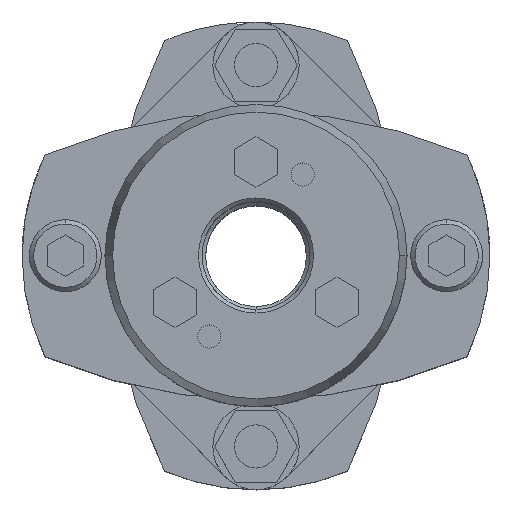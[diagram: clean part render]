
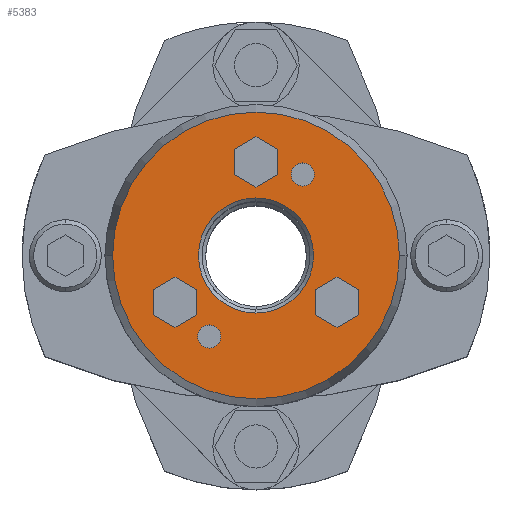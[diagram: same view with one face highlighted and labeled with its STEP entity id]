
A CAD part, top view. The second image highlights one B-rep face of the part: STEP entity #5383.
In plain terms, the highlighted planar face has unit normal (0, 0, 1).
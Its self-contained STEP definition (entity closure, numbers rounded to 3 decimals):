
#1783=CARTESIAN_POINT('',(-19.928,0.,40.0));
#1784=VERTEX_POINT('',#1783);
#1791=CARTESIAN_POINT('',(19.928,0.,40.0));
#1792=VERTEX_POINT('',#1791);
#1793=CARTESIAN_POINT('',(0.,0.,40.0));
#1794=DIRECTION('',(0.0,0.0,-1.0));
#1795=DIRECTION('',(-1.0,0.0,0.0));
#1796=AXIS2_PLACEMENT_3D('',#1793,#1794,#1795);
#1797=CIRCLE('',#1796,19.928);
#1798=EDGE_CURVE('',#1784,#1792,#1797,.T.);
#1893=CARTESIAN_POINT('',(0.,8.,40.0));
#1894=VERTEX_POINT('',#1893);
#1910=CARTESIAN_POINT('',(0.,-8.,40.0));
#1911=VERTEX_POINT('',#1910);
#1918=CARTESIAN_POINT('',(0.,0.,40.0));
#1919=DIRECTION('',(0.0,0.0,1.0));
#1920=DIRECTION('',(0.0,1.0,0.0));
#1921=AXIS2_PLACEMENT_3D('',#1918,#1919,#1920);
#1922=CIRCLE('',#1921,8.0);
#1923=EDGE_CURVE('',#1911,#1894,#1922,.T.);
#2041=CARTESIAN_POINT('',(6.5,12.858,40.0));
#2042=VERTEX_POINT('',#2041);
#2058=CARTESIAN_POINT('',(6.5,9.658,40.0));
#2059=VERTEX_POINT('',#2058);
#2066=CARTESIAN_POINT('',(6.5,11.258,40.0));
#2067=DIRECTION('',(0.0,0.0,-1.0));
#2068=DIRECTION('',(0.0,1.0,0.0));
#2069=AXIS2_PLACEMENT_3D('',#2066,#2067,#2068);
#2070=CIRCLE('',#2069,1.6);
#2071=EDGE_CURVE('',#2042,#2059,#2070,.T.);
#2083=CARTESIAN_POINT('',(-6.5,-9.658,40.0));
#2084=VERTEX_POINT('',#2083);
#2100=CARTESIAN_POINT('',(-6.5,-12.858,40.0));
#2101=VERTEX_POINT('',#2100);
#2108=CARTESIAN_POINT('',(-6.5,-11.258,40.0));
#2109=DIRECTION('',(0.0,0.0,-1.0));
#2110=DIRECTION('',(0.0,1.0,0.0));
#2111=AXIS2_PLACEMENT_3D('',#2108,#2109,#2110);
#2112=CIRCLE('',#2111,1.6);
#2113=EDGE_CURVE('',#2084,#2101,#2112,.T.);
#4586=CARTESIAN_POINT('',(-6.5,-11.258,40.0));
#4587=DIRECTION('',(0.0,0.0,-1.0));
#4588=DIRECTION('',(0.0,1.0,0.0));
#4589=AXIS2_PLACEMENT_3D('',#4586,#4587,#4588);
#4590=CIRCLE('',#4589,1.6);
#4591=EDGE_CURVE('',#2101,#2084,#4590,.T.);
#4620=CARTESIAN_POINT('',(6.5,11.258,40.0));
#4621=DIRECTION('',(0.0,0.0,-1.0));
#4622=DIRECTION('',(0.0,1.0,0.0));
#4623=AXIS2_PLACEMENT_3D('',#4620,#4621,#4622);
#4624=CIRCLE('',#4623,1.6);
#4625=EDGE_CURVE('',#2059,#2042,#4624,.T.);
#4663=CARTESIAN_POINT('',(-11.258,-3.,40.0));
#4664=VERTEX_POINT('',#4663);
#4671=CARTESIAN_POINT('',(-14.289,-4.75,40.0));
#4672=VERTEX_POINT('',#4671);
#4673=CARTESIAN_POINT('',(-14.289,-4.75,40.0));
#4674=DIRECTION('',(0.866,0.5,0.0));
#4675=VECTOR('',#4674,3.5);
#4676=LINE('',#4673,#4675);
#4677=EDGE_CURVE('',#4672,#4664,#4676,.T.);
#4701=CARTESIAN_POINT('',(-8.227,-4.75,40.0));
#4702=VERTEX_POINT('',#4701);
#4709=CARTESIAN_POINT('',(-11.258,-3.,40.0));
#4710=DIRECTION('',(0.866,-0.5,0.0));
#4711=VECTOR('',#4710,3.5);
#4712=LINE('',#4709,#4711);
#4713=EDGE_CURVE('',#4664,#4702,#4712,.T.);
#4732=CARTESIAN_POINT('',(-8.227,-8.25,40.0));
#4733=VERTEX_POINT('',#4732);
#4740=CARTESIAN_POINT('',(-8.227,-4.75,40.0));
#4741=DIRECTION('',(0.0,-1.0,0.0));
#4742=VECTOR('',#4741,3.5);
#4743=LINE('',#4740,#4742);
#4744=EDGE_CURVE('',#4702,#4733,#4743,.T.);
#4763=CARTESIAN_POINT('',(-11.258,-10.,40.0));
#4764=VERTEX_POINT('',#4763);
#4771=CARTESIAN_POINT('',(-8.227,-8.25,40.0));
#4772=DIRECTION('',(-0.866,-0.5,0.0));
#4773=VECTOR('',#4772,3.5);
#4774=LINE('',#4771,#4773);
#4775=EDGE_CURVE('',#4733,#4764,#4774,.T.);
#4794=CARTESIAN_POINT('',(-14.289,-8.25,40.0));
#4795=VERTEX_POINT('',#4794);
#4802=CARTESIAN_POINT('',(-11.258,-10.,40.0));
#4803=DIRECTION('',(-0.866,0.5,0.0));
#4804=VECTOR('',#4803,3.5);
#4805=LINE('',#4802,#4804);
#4806=EDGE_CURVE('',#4764,#4795,#4805,.T.);
#4824=CARTESIAN_POINT('',(-14.289,-8.25,40.0));
#4825=DIRECTION('',(0.0,1.0,0.0));
#4826=VECTOR('',#4825,3.5);
#4827=LINE('',#4824,#4826);
#4828=EDGE_CURVE('',#4795,#4672,#4827,.T.);
#4863=CARTESIAN_POINT('',(11.258,-3.,40.0));
#4864=VERTEX_POINT('',#4863);
#4871=CARTESIAN_POINT('',(8.227,-4.75,40.0));
#4872=VERTEX_POINT('',#4871);
#4873=CARTESIAN_POINT('',(8.227,-4.75,40.0));
#4874=DIRECTION('',(0.866,0.5,0.0));
#4875=VECTOR('',#4874,3.5);
#4876=LINE('',#4873,#4875);
#4877=EDGE_CURVE('',#4872,#4864,#4876,.T.);
#4901=CARTESIAN_POINT('',(14.289,-4.75,40.0));
#4902=VERTEX_POINT('',#4901);
#4909=CARTESIAN_POINT('',(11.258,-3.,40.0));
#4910=DIRECTION('',(0.866,-0.5,0.0));
#4911=VECTOR('',#4910,3.5);
#4912=LINE('',#4909,#4911);
#4913=EDGE_CURVE('',#4864,#4902,#4912,.T.);
#4932=CARTESIAN_POINT('',(14.289,-8.25,40.0));
#4933=VERTEX_POINT('',#4932);
#4940=CARTESIAN_POINT('',(14.289,-4.75,40.0));
#4941=DIRECTION('',(0.0,-1.0,0.0));
#4942=VECTOR('',#4941,3.5);
#4943=LINE('',#4940,#4942);
#4944=EDGE_CURVE('',#4902,#4933,#4943,.T.);
#4963=CARTESIAN_POINT('',(11.258,-10.,40.0));
#4964=VERTEX_POINT('',#4963);
#4971=CARTESIAN_POINT('',(14.289,-8.25,40.0));
#4972=DIRECTION('',(-0.866,-0.5,0.0));
#4973=VECTOR('',#4972,3.5);
#4974=LINE('',#4971,#4973);
#4975=EDGE_CURVE('',#4933,#4964,#4974,.T.);
#4994=CARTESIAN_POINT('',(8.227,-8.25,40.0));
#4995=VERTEX_POINT('',#4994);
#5002=CARTESIAN_POINT('',(11.258,-10.,40.0));
#5003=DIRECTION('',(-0.866,0.5,0.0));
#5004=VECTOR('',#5003,3.5);
#5005=LINE('',#5002,#5004);
#5006=EDGE_CURVE('',#4964,#4995,#5005,.T.);
#5024=CARTESIAN_POINT('',(8.227,-8.25,40.0));
#5025=DIRECTION('',(0.0,1.0,0.0));
#5026=VECTOR('',#5025,3.5);
#5027=LINE('',#5024,#5026);
#5028=EDGE_CURVE('',#4995,#4872,#5027,.T.);
#5063=CARTESIAN_POINT('',(0.,16.5,40.0));
#5064=VERTEX_POINT('',#5063);
#5071=CARTESIAN_POINT('',(-3.031,14.75,40.0));
#5072=VERTEX_POINT('',#5071);
#5073=CARTESIAN_POINT('',(-3.031,14.75,40.0));
#5074=DIRECTION('',(0.866,0.5,0.0));
#5075=VECTOR('',#5074,3.5);
#5076=LINE('',#5073,#5075);
#5077=EDGE_CURVE('',#5072,#5064,#5076,.T.);
#5101=CARTESIAN_POINT('',(3.031,14.75,40.0));
#5102=VERTEX_POINT('',#5101);
#5109=CARTESIAN_POINT('',(0.,16.5,40.0));
#5110=DIRECTION('',(0.866,-0.5,0.0));
#5111=VECTOR('',#5110,3.5);
#5112=LINE('',#5109,#5111);
#5113=EDGE_CURVE('',#5064,#5102,#5112,.T.);
#5132=CARTESIAN_POINT('',(3.031,11.25,40.0));
#5133=VERTEX_POINT('',#5132);
#5140=CARTESIAN_POINT('',(3.031,14.75,40.0));
#5141=DIRECTION('',(0.0,-1.0,0.0));
#5142=VECTOR('',#5141,3.5);
#5143=LINE('',#5140,#5142);
#5144=EDGE_CURVE('',#5102,#5133,#5143,.T.);
#5163=CARTESIAN_POINT('',(0.,9.5,40.0));
#5164=VERTEX_POINT('',#5163);
#5171=CARTESIAN_POINT('',(3.031,11.25,40.0));
#5172=DIRECTION('',(-0.866,-0.5,0.0));
#5173=VECTOR('',#5172,3.5);
#5174=LINE('',#5171,#5173);
#5175=EDGE_CURVE('',#5133,#5164,#5174,.T.);
#5194=CARTESIAN_POINT('',(-3.031,11.25,40.0));
#5195=VERTEX_POINT('',#5194);
#5202=CARTESIAN_POINT('',(0.,9.5,40.0));
#5203=DIRECTION('',(-0.866,0.5,0.0));
#5204=VECTOR('',#5203,3.5);
#5205=LINE('',#5202,#5204);
#5206=EDGE_CURVE('',#5164,#5195,#5205,.T.);
#5224=CARTESIAN_POINT('',(-3.031,11.25,40.0));
#5225=DIRECTION('',(0.0,1.0,0.0));
#5226=VECTOR('',#5225,3.5);
#5227=LINE('',#5224,#5226);
#5228=EDGE_CURVE('',#5195,#5072,#5227,.T.);
#5320=CARTESIAN_POINT('',(0.,0.,40.0));
#5321=DIRECTION('',(0.0,0.0,1.0));
#5322=DIRECTION('',(0.0,1.0,0.0));
#5323=AXIS2_PLACEMENT_3D('',#5320,#5321,#5322);
#5324=CIRCLE('',#5323,8.0);
#5325=EDGE_CURVE('',#1894,#1911,#5324,.T.);
#5332=CARTESIAN_POINT('',(-9.964,0.,40.0));
#5333=DIRECTION('',(0.0,0.0,1.0));
#5334=DIRECTION('',(0.0,1.0,0.0));
#5335=AXIS2_PLACEMENT_3D('',#5332,#5333,#5334);
#5336=PLANE('',#5335);
#5337=ORIENTED_EDGE('',*,*,#1798,.F.);
#5338=CARTESIAN_POINT('',(0.,0.,40.0));
#5339=DIRECTION('',(0.0,0.0,-1.0));
#5340=DIRECTION('',(-1.0,0.0,0.0));
#5341=AXIS2_PLACEMENT_3D('',#5338,#5339,#5340);
#5342=CIRCLE('',#5341,19.928);
#5343=EDGE_CURVE('',#1792,#1784,#5342,.T.);
#5344=ORIENTED_EDGE('',*,*,#5343,.F.);
#5345=EDGE_LOOP('',(#5337,#5344));
#5346=FACE_OUTER_BOUND('',#5345,.T.);
#5347=ORIENTED_EDGE('',*,*,#2113,.T.);
#5348=ORIENTED_EDGE('',*,*,#4591,.T.);
#5349=EDGE_LOOP('',(#5347,#5348));
#5350=FACE_BOUND('',#5349,.T.);
#5351=ORIENTED_EDGE('',*,*,#2071,.T.);
#5352=ORIENTED_EDGE('',*,*,#4625,.T.);
#5353=EDGE_LOOP('',(#5351,#5352));
#5354=FACE_BOUND('',#5353,.T.);
#5355=ORIENTED_EDGE('',*,*,#4677,.T.);
#5356=ORIENTED_EDGE('',*,*,#4713,.T.);
#5357=ORIENTED_EDGE('',*,*,#4744,.T.);
#5358=ORIENTED_EDGE('',*,*,#4775,.T.);
#5359=ORIENTED_EDGE('',*,*,#4806,.T.);
#5360=ORIENTED_EDGE('',*,*,#4828,.T.);
#5361=EDGE_LOOP('',(#5355,#5356,#5357,#5358,#5359,#5360));
#5362=FACE_BOUND('',#5361,.T.);
#5363=ORIENTED_EDGE('',*,*,#4877,.T.);
#5364=ORIENTED_EDGE('',*,*,#4913,.T.);
#5365=ORIENTED_EDGE('',*,*,#4944,.T.);
#5366=ORIENTED_EDGE('',*,*,#4975,.T.);
#5367=ORIENTED_EDGE('',*,*,#5006,.T.);
#5368=ORIENTED_EDGE('',*,*,#5028,.T.);
#5369=EDGE_LOOP('',(#5363,#5364,#5365,#5366,#5367,#5368));
#5370=FACE_BOUND('',#5369,.T.);
#5371=ORIENTED_EDGE('',*,*,#5077,.T.);
#5372=ORIENTED_EDGE('',*,*,#5113,.T.);
#5373=ORIENTED_EDGE('',*,*,#5144,.T.);
#5374=ORIENTED_EDGE('',*,*,#5175,.T.);
#5375=ORIENTED_EDGE('',*,*,#5206,.T.);
#5376=ORIENTED_EDGE('',*,*,#5228,.T.);
#5377=EDGE_LOOP('',(#5371,#5372,#5373,#5374,#5375,#5376));
#5378=FACE_BOUND('',#5377,.T.);
#5379=ORIENTED_EDGE('',*,*,#1923,.F.);
#5380=ORIENTED_EDGE('',*,*,#5325,.F.);
#5381=EDGE_LOOP('',(#5379,#5380));
#5382=FACE_BOUND('',#5381,.T.);
#5383=ADVANCED_FACE('',(#5346,#5350,#5354,#5362,#5370,#5378,#5382),#5336,.T.);
